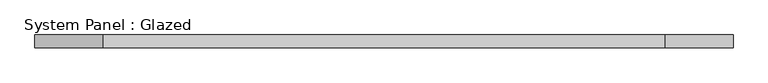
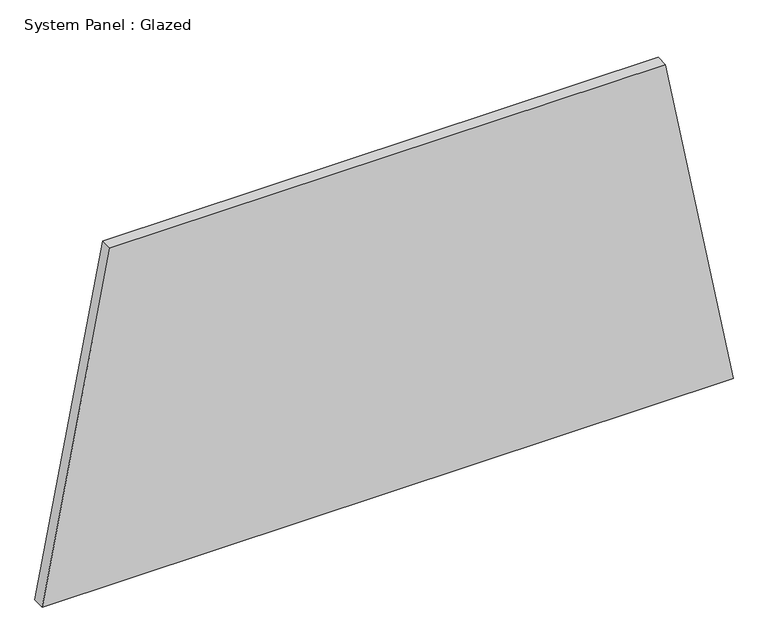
"""IFC4 building model written with IfcOpenShell, lengths in millimetres: plate geometry, System Panel : Glazed."""

from ifc_helpers import new_model, si_unit, frame, origin, place, context, project, spatial, polyline, outline, extrude, source, transform, mapped, element, save


def system_panel_glazed_ecd34a34(model_context):
    return source(origin(), model_context, "Body", "SweptSolid", [
        extrude(outline(polyline([(0.0, -702.0269556), (0.0, 702.0269556), (723.1291385, 564.2205551), (723.1291385, -564.2205551), (0.0, -702.0269556)])), frame((0.0, -44.45, 0.0), z_axis=(0.0, 1.0, 0.0), x_axis=(0.0, 0.0, 1.0)), (0.0, 0.0, 1.0), 25.4),
    ])


if __name__ == "__main__":
    model = new_model("IFC4")
    model_context = context("Model", 3, world=origin())
    ifc_project = project(units=[si_unit("LENGTHUNIT", "METRE", prefix="MILLI")], contexts=[model_context])
    site = spatial("IfcSite", under=ifc_project)
    building = spatial("IfcBuilding", under=site)
    placement = place(None, origin())
    system_panel_glazed_shape = system_panel_glazed_ecd34a34(model_context)
    element("IfcPlate", 1, ObjectType="System Panel : Glazed", at=placement, inside=building, context=model_context, shape_type="MappedRepresentation", body=[
        mapped(system_panel_glazed_shape, transform((0.0, 0.0, 0.0), x_axis=(1.0, 0.0, 0.0), y_axis=(0.0, 1.0, 0.0), z_axis=(0.0, 0.0, 1.0))),
    ])
    save(model, "model.ifc")
